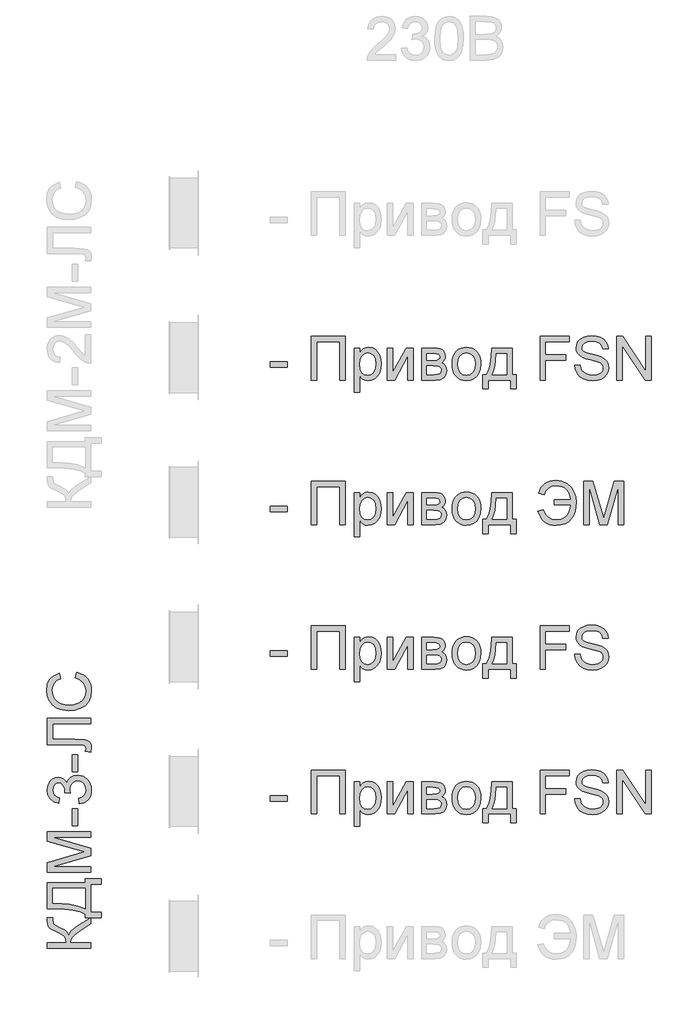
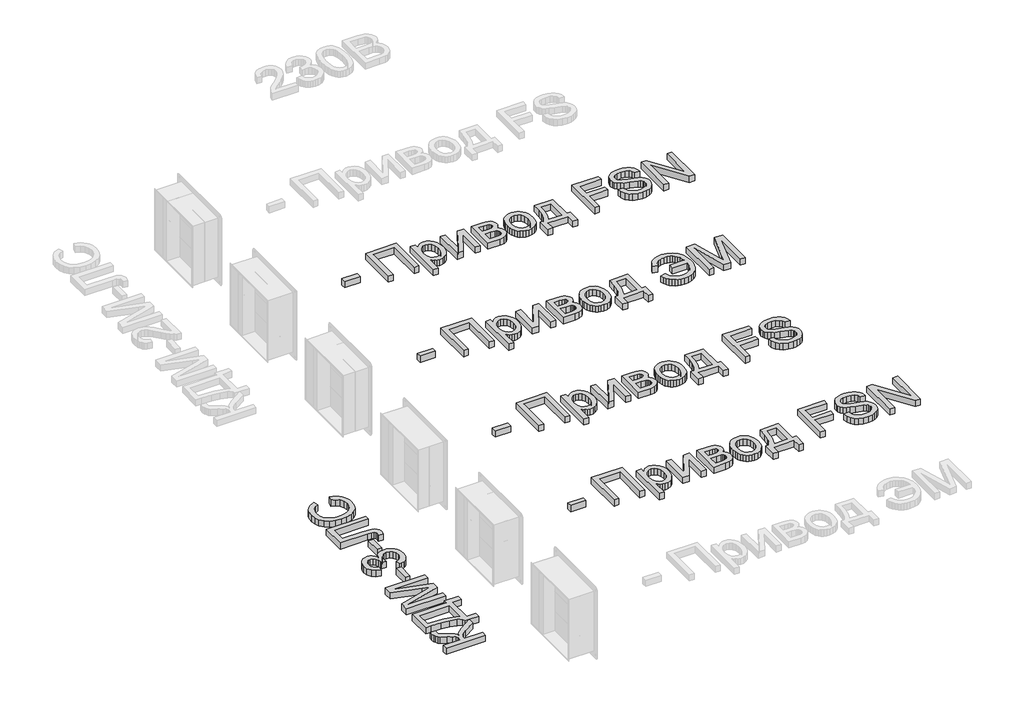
# One storey, part 4 of 23: 5 proxies.
"""IFC4 building model written with IfcOpenShell, lengths in millimetres."""

from ifc_helpers import new_model, si_unit, origin, origin_with_axes, place, context, project, spatial, polyline, outline, extrude, element, save

model = new_model("IFC4")

# Units and contexts
model_context = context("Model", 3, world=origin())
ifc_project = project(units=[si_unit("LENGTHUNIT", "METRE", prefix="MILLI")], contexts=[model_context])

# Site, building, storey
site = spatial("IfcSite", under=ifc_project)
building = spatial("IfcBuilding", under=site)
storey = spatial("IfcBuildingStorey", under=building, Name="Этаж 01", Elevation=0.0)

# Proxies
placement = place(None, origin())
element("IfcBuildingElementProxy", 1, Name="300 мм Arial", ObjectType="300 мм Arial", at=placement, inside=storey, context=model_context, shape_type="SweptSolid", body=[
    extrude(outline(polyline([(17804.7738082, -16034.3206311), (17804.7738082, -15996.6495148), (17922.4960467, -15996.6495148), (17922.4960467, -16034.3206311), (17804.7738082, -16034.3206311)])), origin_with_axes(), (0.0, 0.0, 1.0), 50.0),
    extrude(outline(polyline([(18087.3071805, -15822.4206019), (18322.7516574, -15822.4206019), (18322.7516574, -16123.7895324), (18285.0805411, -16123.7895324), (18285.0805411, -15860.0917182), (18124.9782968, -15860.0917182), (18124.9782968, -16123.7895324), (18087.3071805, -16123.7895324), (18087.3071805, -15822.4206019)])), origin_with_axes(), (0.0, 0.0, 1.0), 50.0),
    extrude(outline(polyline([(18383.9672214, -16208.5495441), (18383.9672214, -15902.4717241), (18421.6383378, -15902.4717241), (18421.6383378, -15939.4070764), (18433.9255964, -15921.1877206), (18447.684383, -15908.173895), (18463.724038, -15900.3655996), (18482.8539017, -15897.7628345), (18508.3297299, -15901.4048663), (18530.6049847, -15912.3309615), (18548.7415671, -15929.8789327), (18561.8013779, -15953.3865922), (18569.6924467, -15981.1432887), (18572.322803, -16011.438371), (18569.3521559, -16043.6556368), (18560.4402145, -16072.469994), (18545.8720875, -16096.4191119), (18525.9328834, -16114.0406595), (18502.7103324, -16124.8839813), (18478.292165, -16128.4984219), (18460.9741201, -16126.0795978), (18445.5138792, -16118.8231254), (18432.2793245, -16107.869439), (18421.6383378, -16094.3589728), (18421.6383378, -16208.5495441), (18383.9672214, -16208.5495441)]), holes=[polyline([(18421.6383378, -16014.8964618), (18425.7126308, -16048.668029), (18437.9355101, -16072.286053), (18455.970925, -16086.1919925), (18477.4828246, -16090.8273056), (18499.3442122, -16086.0264456), (18517.8394795, -16071.6238655), (18530.4486349, -16047.1413187), (18534.6516867, -16012.1005586), (18530.5498024, -15978.5129325), (18518.2441497, -15954.5638146), (18500.236326, -15940.2164168), (18479.027929, -15935.4339508), (18457.7367585, -15940.5199194), (18439.0391561, -15955.7778252), (18425.9885423, -15980.7294215), (18421.6383378, -16014.8964618)])]), origin_with_axes(), (0.0, 0.0, 1.0), 50.0),
    extrude(outline(polyline([(18614.7028088, -15902.4717241), (18652.3739251, -15902.4717241), (18652.3739251, -16071.2559835), (18744.9330351, -15902.4717241), (18793.6406113, -15902.4717241), (18793.6406113, -16123.7895324), (18755.969495, -16123.7895324), (18755.969495, -15956.0353426), (18663.9989962, -16123.7895324), (18614.7028088, -16123.7895324), (18614.7028088, -15902.4717241)])), origin_with_axes(), (0.0, 0.0, 1.0), 50.0),
    extrude(outline(polyline([(18850.1472857, -15902.4717241), (18933.1414638, -15902.4717241), (18959.8221055, -15903.7317199), (18978.6484666, -15907.5117074), (18992.4992238, -15914.6486181), (19004.2530535, -15925.9793836), (19012.2820781, -15940.7406486), (19014.9584196, -15958.1690581), (19013.3397388, -15972.2129533), (19008.4836965, -15984.325468), (19000.3718985, -15994.5617845), (18988.9859507, -16002.9770852), (19002.9286783, -16010.8037746), (19014.296232, -16023.3945359), (19021.856207, -16039.7560876), (19024.3761986, -16058.8951484), (19017.993446, -16087.6083381), (19002.8183137, -16107.8234538), (18978.7956194, -16119.7980127), (18945.8701809, -16123.7895324), (18850.1472857, -16123.7895324), (18850.1472857, -15902.4717241)]), holes=[polyline([(18887.818402, -16086.1184161), (18934.0243806, -16086.1184161), (18959.2059032, -16084.4169618), (18975.0064349, -16079.3125992), (18983.4861149, -16070.0327758), (18986.7050823, -16055.8049397), (18985.0955986, -16046.3779635), (18980.2671474, -16037.6683573), (18972.8543252, -16030.8533433), (18963.4917284, -16027.110144), (18930.3455607, -16024.9028521), (18887.818402, -16024.9028521), (18887.818402, -16086.1184161)]), polyline([(18887.818402, -15987.2317358), (18925.04806, -15987.2317358), (18955.7662065, -15985.3187494), (18970.7022156, -15977.6668039), (18975.6410313, -15971.3392336), (18977.2873033, -15963.8344409), (18974.3994296, -15952.5956459), (18965.7358086, -15945.3667647), (18950.0824297, -15941.4488215), (18926.2252823, -15940.1428404), (18887.818402, -15940.1428404), (18887.818402, -15987.2317358)])]), origin_with_axes(), (0.0, 0.0, 1.0), 50.0),
    extrude(outline(polyline([(19062.047315, -16013.1306282), (19064.0844615, -15984.4680223), (19070.1959011, -15959.7693448), (19080.3816339, -15939.0345959), (19094.6416597, -15922.2637754), (19108.9982546, -15911.5446138), (19124.8447715, -15903.8880698), (19142.1812106, -15899.2941433), (19161.0075717, -15897.7628345), (19181.7906051, -15899.6275364), (19200.5824773, -15905.221642), (19217.3831882, -15914.5451513), (19232.1927377, -15927.5980643), (19244.2799605, -15943.9389227), (19252.9136911, -15963.126268), (19258.0939294, -15985.1601003), (19259.8206756, -16010.0404195), (19256.767255, -16048.0978119), (19247.6069933, -16077.068519), (19232.606605, -16098.7643596), (19212.0328044, -16114.9971527), (19187.5962429, -16125.1231046), (19161.0075717, -16128.4984219), (19139.9210355, -16126.6406178), (19120.9544194, -16121.0672056), (19104.1077233, -16111.7781852), (19089.3809472, -16098.7735567), (19077.4224831, -16082.2740492), (19068.880723, -16062.500392), (19063.755667, -16039.452585), (19062.047315, -16013.1306282)]), holes=[polyline([(19099.7184313, -16013.0570518), (19104.0778329, -16047.1505157), (19117.1560378, -16071.4399245), (19136.8377246, -16085.9804603), (19161.0075717, -16090.8273056), (19185.0670541, -16085.9528692), (19204.7119527, -16071.3295599), (19217.7901576, -16046.7182544), (19222.1495593, -16011.8798294), (19217.7625665, -15978.7796469), (19204.6015881, -15954.821332), (19184.9290984, -15940.2807961), (19161.0075717, -15935.4339508), (19136.8377246, -15940.262402), (19117.1560378, -15954.7477556), (19104.0778329, -15978.981982), (19099.7184313, -16013.0570518)])]), origin_with_axes(), (0.0, 0.0, 1.0), 50.0),
    extrude(outline(polyline([(19335.1629082, -15902.4717241), (19476.4295943, -15902.4717241), (19476.4295943, -16086.1184161), (19504.6829316, -16086.1184161), (19504.6829316, -16185.0050964), (19467.0118152, -16185.0050964), (19467.0118152, -16123.7895324), (19311.6184605, -16123.7895324), (19311.6184605, -16185.0050964), (19273.9473442, -16185.0050964), (19273.9473442, -16086.1184161), (19297.4917919, -16086.1184161), (19314.6075017, -16055.1887373), (19326.5912577, -16014.2710624), (19333.4430598, -15963.3653913), (19335.1629082, -15902.4717241)]), holes=[polyline([(19368.1251349, -15940.1428404), (19365.0349262, -15986.2660455), (19359.2959671, -16025.9697099), (19350.9082576, -16059.2538334), (19339.8717977, -16086.1184161), (19438.758478, -16086.1184161), (19438.758478, -15940.1428404), (19368.1251349, -15940.1428404)])]), origin_with_axes(), (0.0, 0.0, 1.0), 50.0),
    extrude(outline(polyline([(19669.4940654, -16123.7895324), (19669.4940654, -15822.4206019), (19871.9763155, -15822.4206019), (19871.9763155, -15860.0917182), (19707.1651817, -15860.0917182), (19707.1651817, -15949.5606195), (19848.4318678, -15949.5606195), (19848.4318678, -15987.2317358), (19707.1651817, -15987.2317358), (19707.1651817, -16123.7895324), (19669.4940654, -16123.7895324)])), origin_with_axes(), (0.0, 0.0, 1.0), 50.0),
    extrude(outline(polyline([(19909.6474318, -16020.1939625), (19947.3185481, -16020.1939625), (19951.6411616, -16041.0988569), (19959.458654, -16057.901867), (19971.6539421, -16071.2375894), (19989.1099428, -16081.7406203), (20010.4470985, -16088.5556343), (20034.2858518, -16090.8273056), (20055.2735196, -16089.1074573), (20073.6492253, -16083.9479123), (20088.539249, -16075.780932), (20099.0698712, -16065.0387777), (20105.3330621, -16052.7055339), (20107.4207924, -16039.7652847), (20105.857294, -16027.1561293), (20101.1667985, -16016.2576252), (20091.6386549, -16006.9594078), (20075.5622117, -15999.1511124), (20020.7110062, -15984.7669264), (19984.7045559, -15975.2479798), (19961.665946, -15966.1888856), (19942.9131613, -15953.5153509), (19929.6234242, -15938.1562776), (19921.7047642, -15920.4427595), (19919.0652109, -15900.7058905), (19922.3301636, -15878.6421678), (19932.1250217, -15858.0683673), (19948.1922679, -15840.6307607), (19970.2743846, -15827.97562), (19996.7802824, -15820.2776893), (20026.1188715, -15817.7117124), (20057.9038759, -15820.3972509), (20085.7157547, -15828.4538666), (20108.5612266, -15841.7160126), (20125.4470102, -15860.0181418), (20136.1339822, -15882.2198202), (20140.3830192, -15907.1806136), (20102.7119029, -15907.1806136), (20095.7957214, -15884.7030237), (20081.3747472, -15868.4794277), (20058.841975, -15858.6569784), (20027.5903995, -15855.3828287), (19995.60306, -15858.6201902), (19973.658899, -15868.3322749), (19960.9669702, -15882.6244904), (19956.7363272, -15899.6022445), (19959.7345655, -15914.078401), (19968.7292803, -15925.7218662), (19989.9928596, -15936.1329266), (20030.2391499, -15946.7647163), (20071.7730271, -15956.8630771), (20096.8993674, -15965.6738508), (20118.3744789, -15979.340667), (20133.3564731, -15996.2080564), (20142.1580498, -16016.0920783), (20145.0919088, -16038.8087915), (20141.7165914, -16062.0313424), (20131.5906395, -16083.8743359), (20115.1279202, -16102.6731058), (20092.7423008, -16116.7629863), (20065.8225358, -16125.564563), (20035.7573798, -16128.4984219), (19998.8496186, -16125.3346367), (19968.4717629, -16115.8432813), (19944.2743246, -16099.9875673), (19925.907816, -16077.7307066), (19914.1171981, -16050.6178035), (19909.6474318, -16020.1939625)])), origin_with_axes(), (0.0, 0.0, 1.0), 50.0),
    extrude(outline(polyline([(20201.5985832, -16123.7895324), (20201.5985832, -15822.4206019), (20241.9184499, -15822.4206019), (20399.3719438, -16061.1760168), (20399.3719438, -15822.4206019), (20437.0430601, -15822.4206019), (20437.0430601, -16123.7895324), (20396.7231935, -16123.7895324), (20239.2696995, -15884.9605411), (20239.2696995, -16123.7895324), (20201.5985832, -16123.7895324)])), origin_with_axes(), (0.0, 0.0, 1.0), 50.0),
])
element("IfcBuildingElementProxy", 2, Name="300 мм Arial", ObjectType="300 мм Arial", at=placement, inside=storey, context=model_context, shape_type="SweptSolid", body=[
    extrude(outline(polyline([(17804.7738082, -17034.3206311), (17804.7738082, -16996.6495148), (17922.4960467, -16996.6495148), (17922.4960467, -17034.3206311), (17804.7738082, -17034.3206311)])), origin_with_axes(), (0.0, 0.0, 1.0), 50.0),
    extrude(outline(polyline([(18087.3071805, -16822.4206019), (18322.7516574, -16822.4206019), (18322.7516574, -17123.7895324), (18285.0805411, -17123.7895324), (18285.0805411, -16860.0917182), (18124.9782968, -16860.0917182), (18124.9782968, -17123.7895324), (18087.3071805, -17123.7895324), (18087.3071805, -16822.4206019)])), origin_with_axes(), (0.0, 0.0, 1.0), 50.0),
    extrude(outline(polyline([(18383.9672214, -17208.5495441), (18383.9672214, -16902.4717241), (18421.6383378, -16902.4717241), (18421.6383378, -16939.4070764), (18433.9255964, -16921.1877206), (18447.684383, -16908.173895), (18463.724038, -16900.3655996), (18482.8539017, -16897.7628345), (18508.3297299, -16901.4048663), (18530.6049847, -16912.3309615), (18548.7415671, -16929.8789327), (18561.8013779, -16953.3865922), (18569.6924467, -16981.1432887), (18572.322803, -17011.438371), (18569.3521559, -17043.6556368), (18560.4402145, -17072.469994), (18545.8720875, -17096.4191119), (18525.9328834, -17114.0406595), (18502.7103324, -17124.8839813), (18478.292165, -17128.4984219), (18460.9741201, -17126.0795978), (18445.5138792, -17118.8231254), (18432.2793245, -17107.869439), (18421.6383378, -17094.3589728), (18421.6383378, -17208.5495441), (18383.9672214, -17208.5495441)]), holes=[polyline([(18421.6383378, -17014.8964618), (18425.7126308, -17048.668029), (18437.9355101, -17072.286053), (18455.970925, -17086.1919925), (18477.4828246, -17090.8273056), (18499.3442122, -17086.0264456), (18517.8394795, -17071.6238655), (18530.4486349, -17047.1413187), (18534.6516867, -17012.1005586), (18530.5498024, -16978.5129325), (18518.2441497, -16954.5638146), (18500.236326, -16940.2164168), (18479.027929, -16935.4339508), (18457.7367585, -16940.5199194), (18439.0391561, -16955.7778252), (18425.9885423, -16980.7294215), (18421.6383378, -17014.8964618)])]), origin_with_axes(), (0.0, 0.0, 1.0), 50.0),
    extrude(outline(polyline([(18614.7028088, -16902.4717241), (18652.3739251, -16902.4717241), (18652.3739251, -17071.2559835), (18744.9330351, -16902.4717241), (18793.6406113, -16902.4717241), (18793.6406113, -17123.7895324), (18755.969495, -17123.7895324), (18755.969495, -16956.0353426), (18663.9989962, -17123.7895324), (18614.7028088, -17123.7895324), (18614.7028088, -16902.4717241)])), origin_with_axes(), (0.0, 0.0, 1.0), 50.0),
    extrude(outline(polyline([(18850.1472857, -16902.4717241), (18933.1414638, -16902.4717241), (18959.8221055, -16903.7317199), (18978.6484666, -16907.5117074), (18992.4992238, -16914.6486181), (19004.2530535, -16925.9793836), (19012.2820781, -16940.7406486), (19014.9584196, -16958.1690581), (19013.3397388, -16972.2129533), (19008.4836965, -16984.325468), (19000.3718985, -16994.5617845), (18988.9859507, -17002.9770852), (19002.9286783, -17010.8037746), (19014.296232, -17023.3945359), (19021.856207, -17039.7560876), (19024.3761986, -17058.8951484), (19017.993446, -17087.6083381), (19002.8183137, -17107.8234538), (18978.7956194, -17119.7980127), (18945.8701809, -17123.7895324), (18850.1472857, -17123.7895324), (18850.1472857, -16902.4717241)]), holes=[polyline([(18887.818402, -17086.1184161), (18934.0243806, -17086.1184161), (18959.2059032, -17084.4169618), (18975.0064349, -17079.3125992), (18983.4861149, -17070.0327758), (18986.7050823, -17055.8049397), (18985.0955986, -17046.3779635), (18980.2671474, -17037.6683573), (18972.8543252, -17030.8533433), (18963.4917284, -17027.110144), (18930.3455607, -17024.9028521), (18887.818402, -17024.9028521), (18887.818402, -17086.1184161)]), polyline([(18887.818402, -16987.2317358), (18925.04806, -16987.2317358), (18955.7662065, -16985.3187494), (18970.7022156, -16977.6668039), (18975.6410313, -16971.3392336), (18977.2873033, -16963.8344409), (18974.3994296, -16952.5956459), (18965.7358086, -16945.3667647), (18950.0824297, -16941.4488215), (18926.2252823, -16940.1428404), (18887.818402, -16940.1428404), (18887.818402, -16987.2317358)])]), origin_with_axes(), (0.0, 0.0, 1.0), 50.0),
    extrude(outline(polyline([(19062.047315, -17013.1306282), (19064.0844615, -16984.4680223), (19070.1959011, -16959.7693448), (19080.3816339, -16939.0345959), (19094.6416597, -16922.2637754), (19108.9982546, -16911.5446138), (19124.8447715, -16903.8880698), (19142.1812106, -16899.2941433), (19161.0075717, -16897.7628345), (19181.7906051, -16899.6275364), (19200.5824773, -16905.221642), (19217.3831882, -16914.5451513), (19232.1927377, -16927.5980643), (19244.2799605, -16943.9389227), (19252.9136911, -16963.126268), (19258.0939294, -16985.1601003), (19259.8206756, -17010.0404195), (19256.767255, -17048.0978119), (19247.6069933, -17077.068519), (19232.606605, -17098.7643596), (19212.0328044, -17114.9971527), (19187.5962429, -17125.1231046), (19161.0075717, -17128.4984219), (19139.9210355, -17126.6406178), (19120.9544194, -17121.0672056), (19104.1077233, -17111.7781852), (19089.3809472, -17098.7735567), (19077.4224831, -17082.2740492), (19068.880723, -17062.500392), (19063.755667, -17039.452585), (19062.047315, -17013.1306282)]), holes=[polyline([(19099.7184313, -17013.0570518), (19104.0778329, -17047.1505157), (19117.1560378, -17071.4399245), (19136.8377246, -17085.9804603), (19161.0075717, -17090.8273056), (19185.0670541, -17085.9528692), (19204.7119527, -17071.3295599), (19217.7901576, -17046.7182544), (19222.1495593, -17011.8798294), (19217.7625665, -16978.7796469), (19204.6015881, -16954.821332), (19184.9290984, -16940.2807961), (19161.0075717, -16935.4339508), (19136.8377246, -16940.262402), (19117.1560378, -16954.7477556), (19104.0778329, -16978.981982), (19099.7184313, -17013.0570518)])]), origin_with_axes(), (0.0, 0.0, 1.0), 50.0),
    extrude(outline(polyline([(19335.1629082, -16902.4717241), (19476.4295943, -16902.4717241), (19476.4295943, -17086.1184161), (19504.6829316, -17086.1184161), (19504.6829316, -17185.0050964), (19467.0118152, -17185.0050964), (19467.0118152, -17123.7895324), (19311.6184605, -17123.7895324), (19311.6184605, -17185.0050964), (19273.9473442, -17185.0050964), (19273.9473442, -17086.1184161), (19297.4917919, -17086.1184161), (19314.6075017, -17055.1887373), (19326.5912577, -17014.2710624), (19333.4430598, -16963.3653913), (19335.1629082, -16902.4717241)]), holes=[polyline([(19368.1251349, -16940.1428404), (19365.0349262, -16986.2660455), (19359.2959671, -17025.9697099), (19350.9082576, -17059.2538334), (19339.8717977, -17086.1184161), (19438.758478, -17086.1184161), (19438.758478, -16940.1428404), (19368.1251349, -16940.1428404)])]), origin_with_axes(), (0.0, 0.0, 1.0), 50.0),
    extrude(outline(polyline([(19768.3807457, -16949.5606195), (19881.3940946, -16949.5606195), (19878.6947605, -16929.0121108), (19873.0983556, -16910.7030837), (19864.6048801, -16894.6335383), (19853.2143338, -16880.8034746), (19839.1520445, -16869.681942), (19822.64334, -16861.7379902), (19803.6882202, -16856.9716191), (19782.2866851, -16855.3828287), (19751.8674426, -16859.2088014), (19727.6378147, -16870.6867197), (19709.5978014, -16889.8165834), (19697.7474026, -16916.5983927), (19660.0762863, -16907.1806136), (19666.8637091, -16887.2873947), (19676.1895177, -16869.6934383), (19688.053712, -16854.3987444), (19702.4562922, -16841.4033129), (19719.0799598, -16831.0382377), (19737.6074168, -16823.6346125), (19758.0386631, -16819.1924374), (19780.3736987, -16817.7117124), (19821.4477235, -16823.1471689), (19856.3781189, -16839.4535383), (19884.1256184, -16864.2119966), (19903.6509553, -16895.0037196), (19915.211647, -16930.6054997), (19919.0652109, -16969.7941292), (19917.8925871, -17002.0136942), (19912.0938471, -17031.5707132), (19901.6689911, -17058.4651863), (19886.6180189, -17082.6971135), (19866.9777189, -17102.7351859), (19842.7848792, -17117.0480948), (19814.0394998, -17125.6358401), (19780.7415807, -17128.4984219), (19757.0545788, -17126.9533175), (19735.6576422, -17122.3180044), (19716.5507711, -17114.5924825), (19699.7339654, -17103.7767518), (19685.2072251, -17089.8708124), (19672.9705502, -17072.8746642), (19663.0239408, -17052.7883073), (19655.3673968, -17029.6117416), (19693.0385131, -17020.1939625), (19705.7672301, -17051.0960501), (19725.3385523, -17073.1689698), (19751.7524795, -17086.4127217), (19785.0090119, -17090.8273056), (19804.7182898, -17089.0936617), (19822.5697636, -17083.89273), (19838.5634333, -17075.2245105), (19852.699299, -17063.0890032), (19864.3979464, -17047.9460605), (19873.0799615, -17030.2555351), (19878.7453442, -17010.0174268), (19881.3940946, -16987.2317358), (19768.3807457, -16987.2317358), (19768.3807457, -16949.5606195)])), origin_with_axes(), (0.0, 0.0, 1.0), 50.0),
    extrude(outline(polyline([(19970.8629958, -17123.7895324), (19970.8629958, -16822.4206019), (20035.6838034, -16822.4206019), (20097.3408258, -17034.8356659), (20109.7752372, -17079.2022346), (20123.2397182, -17031.156846), (20183.866671, -16822.4206019), (20248.6874786, -16822.4206019), (20248.6874786, -17123.7895324), (20211.0163623, -17123.7895324), (20211.0163623, -16860.0917182), (20135.3062477, -17123.7895324), (20084.2442268, -17123.7895324), (20008.5341121, -16860.0917182), (20008.5341121, -17123.7895324), (19970.8629958, -17123.7895324)])), origin_with_axes(), (0.0, 0.0, 1.0), 50.0),
])
element("IfcBuildingElementProxy", 3, Name="300 мм Arial", ObjectType="300 мм Arial", at=placement, inside=storey, context=model_context, shape_type="SweptSolid", body=[
    extrude(outline(polyline([(17804.7738082, -18034.3206311), (17804.7738082, -17996.6495148), (17922.4960467, -17996.6495148), (17922.4960467, -18034.3206311), (17804.7738082, -18034.3206311)])), origin_with_axes(), (0.0, 0.0, 1.0), 50.0),
    extrude(outline(polyline([(18087.3071805, -17822.4206019), (18322.7516574, -17822.4206019), (18322.7516574, -18123.7895324), (18285.0805411, -18123.7895324), (18285.0805411, -17860.0917182), (18124.9782968, -17860.0917182), (18124.9782968, -18123.7895324), (18087.3071805, -18123.7895324), (18087.3071805, -17822.4206019)])), origin_with_axes(), (0.0, 0.0, 1.0), 50.0),
    extrude(outline(polyline([(18383.9672214, -18208.5495441), (18383.9672214, -17902.4717241), (18421.6383378, -17902.4717241), (18421.6383378, -17939.4070764), (18433.9255964, -17921.1877206), (18447.684383, -17908.173895), (18463.724038, -17900.3655996), (18482.8539017, -17897.7628345), (18508.3297299, -17901.4048663), (18530.6049847, -17912.3309615), (18548.7415671, -17929.8789327), (18561.8013779, -17953.3865922), (18569.6924467, -17981.1432887), (18572.322803, -18011.438371), (18569.3521559, -18043.6556368), (18560.4402145, -18072.469994), (18545.8720875, -18096.4191119), (18525.9328834, -18114.0406595), (18502.7103324, -18124.8839813), (18478.292165, -18128.4984219), (18460.9741201, -18126.0795978), (18445.5138792, -18118.8231254), (18432.2793245, -18107.869439), (18421.6383378, -18094.3589728), (18421.6383378, -18208.5495441), (18383.9672214, -18208.5495441)]), holes=[polyline([(18421.6383378, -18014.8964618), (18425.7126308, -18048.668029), (18437.9355101, -18072.286053), (18455.970925, -18086.1919925), (18477.4828246, -18090.8273056), (18499.3442122, -18086.0264456), (18517.8394795, -18071.6238655), (18530.4486349, -18047.1413187), (18534.6516867, -18012.1005586), (18530.5498024, -17978.5129325), (18518.2441497, -17954.5638146), (18500.236326, -17940.2164168), (18479.027929, -17935.4339508), (18457.7367585, -17940.5199194), (18439.0391561, -17955.7778252), (18425.9885423, -17980.7294215), (18421.6383378, -18014.8964618)])]), origin_with_axes(), (0.0, 0.0, 1.0), 50.0),
    extrude(outline(polyline([(18614.7028088, -17902.4717241), (18652.3739251, -17902.4717241), (18652.3739251, -18071.2559835), (18744.9330351, -17902.4717241), (18793.6406113, -17902.4717241), (18793.6406113, -18123.7895324), (18755.969495, -18123.7895324), (18755.969495, -17956.0353426), (18663.9989962, -18123.7895324), (18614.7028088, -18123.7895324), (18614.7028088, -17902.4717241)])), origin_with_axes(), (0.0, 0.0, 1.0), 50.0),
    extrude(outline(polyline([(18850.1472857, -17902.4717241), (18933.1414638, -17902.4717241), (18959.8221055, -17903.7317199), (18978.6484666, -17907.5117074), (18992.4992238, -17914.6486181), (19004.2530535, -17925.9793836), (19012.2820781, -17940.7406486), (19014.9584196, -17958.1690581), (19013.3397388, -17972.2129533), (19008.4836965, -17984.325468), (19000.3718985, -17994.5617845), (18988.9859507, -18002.9770852), (19002.9286783, -18010.8037746), (19014.296232, -18023.3945359), (19021.856207, -18039.7560876), (19024.3761986, -18058.8951484), (19017.993446, -18087.6083381), (19002.8183137, -18107.8234538), (18978.7956194, -18119.7980127), (18945.8701809, -18123.7895324), (18850.1472857, -18123.7895324), (18850.1472857, -17902.4717241)]), holes=[polyline([(18887.818402, -18086.1184161), (18934.0243806, -18086.1184161), (18959.2059032, -18084.4169618), (18975.0064349, -18079.3125992), (18983.4861149, -18070.0327758), (18986.7050823, -18055.8049397), (18985.0955986, -18046.3779635), (18980.2671474, -18037.6683573), (18972.8543252, -18030.8533433), (18963.4917284, -18027.110144), (18930.3455607, -18024.9028521), (18887.818402, -18024.9028521), (18887.818402, -18086.1184161)]), polyline([(18887.818402, -17987.2317358), (18925.04806, -17987.2317358), (18955.7662065, -17985.3187494), (18970.7022156, -17977.6668039), (18975.6410313, -17971.3392336), (18977.2873033, -17963.8344409), (18974.3994296, -17952.5956459), (18965.7358086, -17945.3667647), (18950.0824297, -17941.4488215), (18926.2252823, -17940.1428404), (18887.818402, -17940.1428404), (18887.818402, -17987.2317358)])]), origin_with_axes(), (0.0, 0.0, 1.0), 50.0),
    extrude(outline(polyline([(19062.047315, -18013.1306282), (19064.0844615, -17984.4680223), (19070.1959011, -17959.7693448), (19080.3816339, -17939.0345959), (19094.6416597, -17922.2637754), (19108.9982546, -17911.5446138), (19124.8447715, -17903.8880698), (19142.1812106, -17899.2941433), (19161.0075717, -17897.7628345), (19181.7906051, -17899.6275364), (19200.5824773, -17905.221642), (19217.3831882, -17914.5451513), (19232.1927377, -17927.5980643), (19244.2799605, -17943.9389227), (19252.9136911, -17963.126268), (19258.0939294, -17985.1601003), (19259.8206756, -18010.0404195), (19256.767255, -18048.0978119), (19247.6069933, -18077.068519), (19232.606605, -18098.7643596), (19212.0328044, -18114.9971527), (19187.5962429, -18125.1231046), (19161.0075717, -18128.4984219), (19139.9210355, -18126.6406178), (19120.9544194, -18121.0672056), (19104.1077233, -18111.7781852), (19089.3809472, -18098.7735567), (19077.4224831, -18082.2740492), (19068.880723, -18062.500392), (19063.755667, -18039.452585), (19062.047315, -18013.1306282)]), holes=[polyline([(19099.7184313, -18013.0570518), (19104.0778329, -18047.1505157), (19117.1560378, -18071.4399245), (19136.8377246, -18085.9804603), (19161.0075717, -18090.8273056), (19185.0670541, -18085.9528692), (19204.7119527, -18071.3295599), (19217.7901576, -18046.7182544), (19222.1495593, -18011.8798294), (19217.7625665, -17978.7796469), (19204.6015881, -17954.821332), (19184.9290984, -17940.2807961), (19161.0075717, -17935.4339508), (19136.8377246, -17940.262402), (19117.1560378, -17954.7477556), (19104.0778329, -17978.981982), (19099.7184313, -18013.0570518)])]), origin_with_axes(), (0.0, 0.0, 1.0), 50.0),
    extrude(outline(polyline([(19335.1629082, -17902.4717241), (19476.4295943, -17902.4717241), (19476.4295943, -18086.1184161), (19504.6829316, -18086.1184161), (19504.6829316, -18185.0050964), (19467.0118152, -18185.0050964), (19467.0118152, -18123.7895324), (19311.6184605, -18123.7895324), (19311.6184605, -18185.0050964), (19273.9473442, -18185.0050964), (19273.9473442, -18086.1184161), (19297.4917919, -18086.1184161), (19314.6075017, -18055.1887373), (19326.5912577, -18014.2710624), (19333.4430598, -17963.3653913), (19335.1629082, -17902.4717241)]), holes=[polyline([(19368.1251349, -17940.1428404), (19365.0349262, -17986.2660455), (19359.2959671, -18025.9697099), (19350.9082576, -18059.2538334), (19339.8717977, -18086.1184161), (19438.758478, -18086.1184161), (19438.758478, -17940.1428404), (19368.1251349, -17940.1428404)])]), origin_with_axes(), (0.0, 0.0, 1.0), 50.0),
    extrude(outline(polyline([(19669.4940654, -18123.7895324), (19669.4940654, -17822.4206019), (19871.9763155, -17822.4206019), (19871.9763155, -17860.0917182), (19707.1651817, -17860.0917182), (19707.1651817, -17949.5606195), (19848.4318678, -17949.5606195), (19848.4318678, -17987.2317358), (19707.1651817, -17987.2317358), (19707.1651817, -18123.7895324), (19669.4940654, -18123.7895324)])), origin_with_axes(), (0.0, 0.0, 1.0), 50.0),
    extrude(outline(polyline([(19909.6474318, -18020.1939625), (19947.3185481, -18020.1939625), (19951.6411616, -18041.0988569), (19959.458654, -18057.901867), (19971.6539421, -18071.2375894), (19989.1099428, -18081.7406203), (20010.4470985, -18088.5556343), (20034.2858518, -18090.8273056), (20055.2735196, -18089.1074573), (20073.6492253, -18083.9479123), (20088.539249, -18075.780932), (20099.0698712, -18065.0387777), (20105.3330621, -18052.7055339), (20107.4207924, -18039.7652847), (20105.857294, -18027.1561293), (20101.1667985, -18016.2576252), (20091.6386549, -18006.9594078), (20075.5622117, -17999.1511124), (20020.7110062, -17984.7669264), (19984.7045559, -17975.2479798), (19961.665946, -17966.1888856), (19942.9131613, -17953.5153509), (19929.6234242, -17938.1562776), (19921.7047642, -17920.4427595), (19919.0652109, -17900.7058905), (19922.3301636, -17878.6421678), (19932.1250217, -17858.0683673), (19948.1922679, -17840.6307607), (19970.2743846, -17827.97562), (19996.7802824, -17820.2776893), (20026.1188715, -17817.7117124), (20057.9038759, -17820.3972509), (20085.7157547, -17828.4538666), (20108.5612266, -17841.7160126), (20125.4470102, -17860.0181418), (20136.1339822, -17882.2198202), (20140.3830192, -17907.1806136), (20102.7119029, -17907.1806136), (20095.7957214, -17884.7030237), (20081.3747472, -17868.4794277), (20058.841975, -17858.6569784), (20027.5903995, -17855.3828287), (19995.60306, -17858.6201902), (19973.658899, -17868.3322749), (19960.9669702, -17882.6244904), (19956.7363272, -17899.6022445), (19959.7345655, -17914.078401), (19968.7292803, -17925.7218662), (19989.9928596, -17936.1329266), (20030.2391499, -17946.7647163), (20071.7730271, -17956.8630771), (20096.8993674, -17965.6738508), (20118.3744789, -17979.340667), (20133.3564731, -17996.2080564), (20142.1580498, -18016.0920783), (20145.0919088, -18038.8087915), (20141.7165914, -18062.0313424), (20131.5906395, -18083.8743359), (20115.1279202, -18102.6731058), (20092.7423008, -18116.7629863), (20065.8225358, -18125.564563), (20035.7573798, -18128.4984219), (19998.8496186, -18125.3346367), (19968.4717629, -18115.8432813), (19944.2743246, -18099.9875673), (19925.907816, -18077.7307066), (19914.1171981, -18050.6178035), (19909.6474318, -18020.1939625)])), origin_with_axes(), (0.0, 0.0, 1.0), 50.0),
])
element("IfcBuildingElementProxy", 4, Name="300 мм Arial", ObjectType="300 мм Arial", at=placement, inside=storey, context=model_context, shape_type="SweptSolid", body=[
    extrude(outline(polyline([(17804.7738082, -19034.3206311), (17804.7738082, -18996.6495148), (17922.4960467, -18996.6495148), (17922.4960467, -19034.3206311), (17804.7738082, -19034.3206311)])), origin_with_axes(), (0.0, 0.0, 1.0), 50.0),
    extrude(outline(polyline([(18087.3071805, -18822.4206019), (18322.7516574, -18822.4206019), (18322.7516574, -19123.7895324), (18285.0805411, -19123.7895324), (18285.0805411, -18860.0917182), (18124.9782968, -18860.0917182), (18124.9782968, -19123.7895324), (18087.3071805, -19123.7895324), (18087.3071805, -18822.4206019)])), origin_with_axes(), (0.0, 0.0, 1.0), 50.0),
    extrude(outline(polyline([(18383.9672214, -19208.5495441), (18383.9672214, -18902.4717241), (18421.6383378, -18902.4717241), (18421.6383378, -18939.4070764), (18433.9255964, -18921.1877206), (18447.684383, -18908.173895), (18463.724038, -18900.3655996), (18482.8539017, -18897.7628345), (18508.3297299, -18901.4048663), (18530.6049847, -18912.3309615), (18548.7415671, -18929.8789327), (18561.8013779, -18953.3865922), (18569.6924467, -18981.1432887), (18572.322803, -19011.438371), (18569.3521559, -19043.6556368), (18560.4402145, -19072.469994), (18545.8720875, -19096.4191119), (18525.9328834, -19114.0406595), (18502.7103324, -19124.8839813), (18478.292165, -19128.4984219), (18460.9741201, -19126.0795978), (18445.5138792, -19118.8231254), (18432.2793245, -19107.869439), (18421.6383378, -19094.3589728), (18421.6383378, -19208.5495441), (18383.9672214, -19208.5495441)]), holes=[polyline([(18421.6383378, -19014.8964618), (18425.7126308, -19048.668029), (18437.9355101, -19072.286053), (18455.970925, -19086.1919925), (18477.4828246, -19090.8273056), (18499.3442122, -19086.0264456), (18517.8394795, -19071.6238655), (18530.4486349, -19047.1413187), (18534.6516867, -19012.1005586), (18530.5498024, -18978.5129325), (18518.2441497, -18954.5638146), (18500.236326, -18940.2164168), (18479.027929, -18935.4339508), (18457.7367585, -18940.5199194), (18439.0391561, -18955.7778252), (18425.9885423, -18980.7294215), (18421.6383378, -19014.8964618)])]), origin_with_axes(), (0.0, 0.0, 1.0), 50.0),
    extrude(outline(polyline([(18614.7028088, -18902.4717241), (18652.3739251, -18902.4717241), (18652.3739251, -19071.2559835), (18744.9330351, -18902.4717241), (18793.6406113, -18902.4717241), (18793.6406113, -19123.7895324), (18755.969495, -19123.7895324), (18755.969495, -18956.0353426), (18663.9989962, -19123.7895324), (18614.7028088, -19123.7895324), (18614.7028088, -18902.4717241)])), origin_with_axes(), (0.0, 0.0, 1.0), 50.0),
    extrude(outline(polyline([(18850.1472857, -18902.4717241), (18933.1414638, -18902.4717241), (18959.8221055, -18903.7317199), (18978.6484666, -18907.5117074), (18992.4992238, -18914.6486181), (19004.2530535, -18925.9793836), (19012.2820781, -18940.7406486), (19014.9584196, -18958.1690581), (19013.3397388, -18972.2129533), (19008.4836965, -18984.325468), (19000.3718985, -18994.5617845), (18988.9859507, -19002.9770852), (19002.9286783, -19010.8037746), (19014.296232, -19023.3945359), (19021.856207, -19039.7560876), (19024.3761986, -19058.8951484), (19017.993446, -19087.6083381), (19002.8183137, -19107.8234538), (18978.7956194, -19119.7980127), (18945.8701809, -19123.7895324), (18850.1472857, -19123.7895324), (18850.1472857, -18902.4717241)]), holes=[polyline([(18887.818402, -19086.1184161), (18934.0243806, -19086.1184161), (18959.2059032, -19084.4169618), (18975.0064349, -19079.3125992), (18983.4861149, -19070.0327758), (18986.7050823, -19055.8049397), (18985.0955986, -19046.3779635), (18980.2671474, -19037.6683573), (18972.8543252, -19030.8533433), (18963.4917284, -19027.110144), (18930.3455607, -19024.9028521), (18887.818402, -19024.9028521), (18887.818402, -19086.1184161)]), polyline([(18887.818402, -18987.2317358), (18925.04806, -18987.2317358), (18955.7662065, -18985.3187494), (18970.7022156, -18977.6668039), (18975.6410313, -18971.3392336), (18977.2873033, -18963.8344409), (18974.3994296, -18952.5956459), (18965.7358086, -18945.3667647), (18950.0824297, -18941.4488215), (18926.2252823, -18940.1428404), (18887.818402, -18940.1428404), (18887.818402, -18987.2317358)])]), origin_with_axes(), (0.0, 0.0, 1.0), 50.0),
    extrude(outline(polyline([(19062.047315, -19013.1306282), (19064.0844615, -18984.4680223), (19070.1959011, -18959.7693448), (19080.3816339, -18939.0345959), (19094.6416597, -18922.2637754), (19108.9982546, -18911.5446138), (19124.8447715, -18903.8880698), (19142.1812106, -18899.2941433), (19161.0075717, -18897.7628345), (19181.7906051, -18899.6275364), (19200.5824773, -18905.221642), (19217.3831882, -18914.5451513), (19232.1927377, -18927.5980643), (19244.2799605, -18943.9389227), (19252.9136911, -18963.126268), (19258.0939294, -18985.1601003), (19259.8206756, -19010.0404195), (19256.767255, -19048.0978119), (19247.6069933, -19077.068519), (19232.606605, -19098.7643596), (19212.0328044, -19114.9971527), (19187.5962429, -19125.1231046), (19161.0075717, -19128.4984219), (19139.9210355, -19126.6406178), (19120.9544194, -19121.0672056), (19104.1077233, -19111.7781852), (19089.3809472, -19098.7735567), (19077.4224831, -19082.2740492), (19068.880723, -19062.500392), (19063.755667, -19039.452585), (19062.047315, -19013.1306282)]), holes=[polyline([(19099.7184313, -19013.0570518), (19104.0778329, -19047.1505157), (19117.1560378, -19071.4399245), (19136.8377246, -19085.9804603), (19161.0075717, -19090.8273056), (19185.0670541, -19085.9528692), (19204.7119527, -19071.3295599), (19217.7901576, -19046.7182544), (19222.1495593, -19011.8798294), (19217.7625665, -18978.7796469), (19204.6015881, -18954.821332), (19184.9290984, -18940.2807961), (19161.0075717, -18935.4339508), (19136.8377246, -18940.262402), (19117.1560378, -18954.7477556), (19104.0778329, -18978.981982), (19099.7184313, -19013.0570518)])]), origin_with_axes(), (0.0, 0.0, 1.0), 50.0),
    extrude(outline(polyline([(19335.1629082, -18902.4717241), (19476.4295943, -18902.4717241), (19476.4295943, -19086.1184161), (19504.6829316, -19086.1184161), (19504.6829316, -19185.0050964), (19467.0118152, -19185.0050964), (19467.0118152, -19123.7895324), (19311.6184605, -19123.7895324), (19311.6184605, -19185.0050964), (19273.9473442, -19185.0050964), (19273.9473442, -19086.1184161), (19297.4917919, -19086.1184161), (19314.6075017, -19055.1887373), (19326.5912577, -19014.2710624), (19333.4430598, -18963.3653913), (19335.1629082, -18902.4717241)]), holes=[polyline([(19368.1251349, -18940.1428404), (19365.0349262, -18986.2660455), (19359.2959671, -19025.9697099), (19350.9082576, -19059.2538334), (19339.8717977, -19086.1184161), (19438.758478, -19086.1184161), (19438.758478, -18940.1428404), (19368.1251349, -18940.1428404)])]), origin_with_axes(), (0.0, 0.0, 1.0), 50.0),
    extrude(outline(polyline([(19669.4940654, -19123.7895324), (19669.4940654, -18822.4206019), (19871.9763155, -18822.4206019), (19871.9763155, -18860.0917182), (19707.1651817, -18860.0917182), (19707.1651817, -18949.5606195), (19848.4318678, -18949.5606195), (19848.4318678, -18987.2317358), (19707.1651817, -18987.2317358), (19707.1651817, -19123.7895324), (19669.4940654, -19123.7895324)])), origin_with_axes(), (0.0, 0.0, 1.0), 50.0),
    extrude(outline(polyline([(19909.6474318, -19020.1939625), (19947.3185481, -19020.1939625), (19951.6411616, -19041.0988569), (19959.458654, -19057.901867), (19971.6539421, -19071.2375894), (19989.1099428, -19081.7406203), (20010.4470985, -19088.5556343), (20034.2858518, -19090.8273056), (20055.2735196, -19089.1074573), (20073.6492253, -19083.9479123), (20088.539249, -19075.780932), (20099.0698712, -19065.0387777), (20105.3330621, -19052.7055339), (20107.4207924, -19039.7652847), (20105.857294, -19027.1561293), (20101.1667985, -19016.2576252), (20091.6386549, -19006.9594078), (20075.5622117, -18999.1511124), (20020.7110062, -18984.7669264), (19984.7045559, -18975.2479798), (19961.665946, -18966.1888856), (19942.9131613, -18953.5153509), (19929.6234242, -18938.1562776), (19921.7047642, -18920.4427595), (19919.0652109, -18900.7058905), (19922.3301636, -18878.6421678), (19932.1250217, -18858.0683673), (19948.1922679, -18840.6307607), (19970.2743846, -18827.97562), (19996.7802824, -18820.2776893), (20026.1188715, -18817.7117124), (20057.9038759, -18820.3972509), (20085.7157547, -18828.4538666), (20108.5612266, -18841.7160126), (20125.4470102, -18860.0181418), (20136.1339822, -18882.2198202), (20140.3830192, -18907.1806136), (20102.7119029, -18907.1806136), (20095.7957214, -18884.7030237), (20081.3747472, -18868.4794277), (20058.841975, -18858.6569784), (20027.5903995, -18855.3828287), (19995.60306, -18858.6201902), (19973.658899, -18868.3322749), (19960.9669702, -18882.6244904), (19956.7363272, -18899.6022445), (19959.7345655, -18914.078401), (19968.7292803, -18925.7218662), (19989.9928596, -18936.1329266), (20030.2391499, -18946.7647163), (20071.7730271, -18956.8630771), (20096.8993674, -18965.6738508), (20118.3744789, -18979.340667), (20133.3564731, -18996.2080564), (20142.1580498, -19016.0920783), (20145.0919088, -19038.8087915), (20141.7165914, -19062.0313424), (20131.5906395, -19083.8743359), (20115.1279202, -19102.6731058), (20092.7423008, -19116.7629863), (20065.8225358, -19125.564563), (20035.7573798, -19128.4984219), (19998.8496186, -19125.3346367), (19968.4717629, -19115.8432813), (19944.2743246, -19099.9875673), (19925.907816, -19077.7307066), (19914.1171981, -19050.6178035), (19909.6474318, -19020.1939625)])), origin_with_axes(), (0.0, 0.0, 1.0), 50.0),
    extrude(outline(polyline([(20201.5985832, -19123.7895324), (20201.5985832, -18822.4206019), (20241.9184499, -18822.4206019), (20399.3719438, -19061.1760168), (20399.3719438, -18822.4206019), (20437.0430601, -18822.4206019), (20437.0430601, -19123.7895324), (20396.7231935, -19123.7895324), (20239.2696995, -18884.9605411), (20239.2696995, -19123.7895324), (20201.5985832, -19123.7895324)])), origin_with_axes(), (0.0, 0.0, 1.0), 50.0),
])
element("IfcBuildingElementProxy", 5, Name="300 мм Arial", ObjectType="300 мм Arial", at=placement, inside=storey, context=model_context, shape_type="SweptSolid", body=[
    extrude(outline(polyline([(16262.355345, -20052.3550656), (16262.355345, -20014.6839493), (16394.2042521, -20014.6839493), (16391.7118516, -19989.1805299), (16384.23465, -19972.5614608), (16366.6406936, -19959.1245709), (16333.7980285, -19943.1676894), (16291.6755401, -19922.3823567), (16280.2620012, -19912.3575723), (16270.8166309, -19898.837909), (16264.4706665, -19882.7890569), (16262.355345, -19865.1767064), (16262.7968034, -19840.4550363), (16300.4679197, -19840.4550363), (16300.2471905, -19848.7691694), (16300.0264613, -19857.0833025), (16302.2889356, -19874.3369681), (16309.0763584, -19886.5138621), (16323.3317857, -19896.998499), (16347.8511207, -19908.8810874), (16378.3853263, -19923.4584115), (16395.0871689, -19935.5525321), (16410.6853655, -19961.5617892), (16416.8933742, -19946.9706695), (16427.7183019, -19932.4807174), (16463.2189144, -19903.8043159), (16563.7242755, -19840.4550363), (16563.7242755, -19884.1594174), (16478.817111, -19937.7230359), (16451.5846463, -19958.407201), (16434.4873306, -19975.4309404), (16425.4650246, -19992.8409558), (16422.4575893, -20014.6839493), (16563.7242755, -20014.6839493), (16563.7242755, -20052.3550656), (16262.355345, -20052.3550656)])), origin_with_axes(), (0.0, 0.0, 1.0), 50.0),
    extrude(outline(polyline([(16262.355345, -19779.2394723), (16262.355345, -19600.3016699), (16526.0531592, -19600.3016699), (16526.0531592, -19572.0483327), (16634.3576186, -19572.0483327), (16634.3576186, -19609.719449), (16563.7242755, -19609.719449), (16563.7242755, -19802.78392), (16634.3576186, -19802.78392), (16634.3576186, -19840.4550363), (16563.7242755, -19840.4550363), (16526.0531592, -19840.4550363), (16526.0531592, -19816.9105887), (16491.8815204, -19800.4294753), (16443.8131392, -19788.6572514), (16381.8480156, -19781.5939171), (16305.9861497, -19779.2394723), (16262.355345, -19779.2394723)]), holes=[polyline([(16300.0264613, -19637.9727862), (16300.0264613, -19741.568356), (16315.1831995, -19741.568356), (16418.4108874, -19749.2203015), (16478.0629529, -19760.551067), (16526.0531592, -19779.2394723), (16526.0531592, -19637.9727862), (16300.0264613, -19637.9727862)])]), origin_with_axes(), (0.0, 0.0, 1.0), 50.0),
    extrude(outline(polyline([(16563.7242755, -19524.9594373), (16262.355345, -19524.9594373), (16262.355345, -19460.1386297), (16474.7704091, -19398.4816073), (16519.1369777, -19386.0471959), (16471.0915891, -19372.5827149), (16262.355345, -19311.9557621), (16262.355345, -19247.1349545), (16563.7242755, -19247.1349545), (16563.7242755, -19284.8060708), (16300.0264613, -19284.8060708), (16563.7242755, -19360.5161854), (16563.7242755, -19411.5782064), (16300.0264613, -19487.288321), (16563.7242755, -19487.288321), (16563.7242755, -19524.9594373)])), origin_with_axes(), (0.0, 0.0, 1.0), 50.0),
    extrude(outline(polyline([(16474.2553743, -19204.7549487), (16436.584258, -19204.7549487), (16436.584258, -19087.0327102), (16474.2553743, -19087.0327102), (16474.2553743, -19204.7549487)])), origin_with_axes(), (0.0, 0.0, 1.0), 50.0),
    extrude(outline(polyline([(16483.6731533, -19054.0704835), (16478.9642638, -19016.3993671), (16502.6374702, -19007.9656724), (16518.6219429, -18995.6140344), (16527.7270223, -18978.7374479), (16530.7620487, -18956.7289075), (16526.5865881, -18930.9035915), (16514.0602061, -18910.9643873), (16495.3718008, -18898.2172762), (16472.7102699, -18893.9682392), (16451.1983702, -18898.180488), (16433.7515666, -18910.8172345), (16422.1908749, -18929.9470983), (16418.337311, -18953.6386988), (16422.4575893, -18980.052626), (16384.786473, -18975.8587713), (16385.2279314, -18969.8255066), (16382.5239988, -18947.2559462), (16374.4122008, -18927.0776187), (16360.6902023, -18912.8405855), (16341.1556684, -18908.0949078), (16324.8860872, -18911.5346044), (16311.6883206, -18921.8536944), (16302.9419262, -18937.5990438), (16300.0264613, -18957.3175187), (16302.9695173, -18977.0727819), (16311.7986852, -18993.2228015), (16326.513965, -19005.0134194), (16347.1153567, -19011.6904776), (16342.4064672, -19049.3615939), (16308.5797177, -19038.2699518), (16283.3246188, -19018.5330827), (16267.5976635, -18991.5305443), (16262.355345, -18958.6418939), (16264.9397161, -18934.9594905), (16272.6928291, -18913.2084675), (16284.9249054, -18894.86955), (16300.9461663, -18881.4234631), (16319.4046454, -18873.1737094), (16338.9483764, -18870.4237915), (16357.1585352, -18873.0357536), (16373.6764368, -18880.8716401), (16387.7479231, -18893.8210864), (16398.6188361, -18911.7737277), (16408.1469797, -18888.1924918), (16424.3705757, -18870.7180971), (16446.4067072, -18859.9023664), (16473.3724575, -18856.2971228), (16492.4839271, -18858.0997446), (16510.0870806, -18863.50761), (16526.1819179, -18872.5207188), (16540.768439, -18885.1390713), (16552.8717566, -18900.5119401), (16561.5169835, -18917.7885983), (16566.7041196, -18936.9690459), (16568.433165, -18958.0532827), (16566.9570385, -18977.1095701), (16562.528659, -18994.4736002), (16555.1480265, -19010.1453732), (16544.8151409, -19024.124889), (16532.1370077, -19035.8465291), (16517.720632, -19044.7446749), (16501.5660139, -19050.8193263), (16483.6731533, -19054.0704835)])), origin_with_axes(), (0.0, 0.0, 1.0), 50.0),
    extrude(outline(polyline([(16474.2553743, -18832.7526752), (16436.584258, -18832.7526752), (16436.584258, -18715.0304367), (16474.2553743, -18715.0304367), (16474.2553743, -18832.7526752)])), origin_with_axes(), (0.0, 0.0, 1.0), 50.0),
    extrude(outline(polyline([(16262.355345, -18644.3970936), (16262.355345, -18460.7504016), (16563.7242755, -18460.7504016), (16563.7242755, -18498.4215179), (16300.0264613, -18498.4215179), (16300.0264613, -18606.7259773), (16453.8011353, -18606.7259773), (16522.4111274, -18611.1037731), (16541.7985086, -18617.8819988), (16556.3298474, -18629.4610846), (16565.4073356, -18645.3167986), (16568.433165, -18664.924909), (16563.7242755, -18696.1948785), (16526.0531592, -18691.485989), (16530.7620487, -18673.4597712), (16528.23286, -18660.7218572), (16520.6452939, -18651.6443689), (16503.6767368, -18646.2089125), (16473.0045755, -18644.3970936), (16262.355345, -18644.3970936)])), origin_with_axes(), (0.0, 0.0, 1.0), 50.0),
    extrude(outline(polyline([(16456.5970385, -18182.9259189), (16466.3091232, -18145.2548026), (16489.7363085, -18152.7090115), (16510.2066422, -18162.6372268), (16527.7201245, -18175.0394486), (16542.2767552, -18189.9156768), (16553.7201845, -18206.9302191), (16561.8940626, -18225.7473831), (16566.7983894, -18246.3671689), (16568.433165, -18268.7895765), (16563.4851522, -18312.4847605), (16548.6411137, -18347.1852297), (16524.4160843, -18373.783098), (16491.3250988, -18393.1704791), (16452.4215778, -18405.0070823), (16410.7589419, -18408.9526167), (16366.8154376, -18404.4920475), (16328.8684098, -18391.1103399), (16298.122672, -18369.5064698), (16275.7830379, -18340.3794128), (16262.1806011, -18305.8352935), (16257.6464555, -18267.9802362), (16263.5141733, -18226.6762852), (16270.8488206, -18208.7075489), (16281.1173268, -18192.5276389), (16294.0483789, -18178.4032696), (16309.370664, -18166.6011553), (16347.1889331, -18149.9636921), (16356.1652538, -18187.6348084), (16328.6936658, -18200.6946192), (16309.8489106, -18218.536896), (16298.9504065, -18241.3823679), (16295.3175718, -18269.4517641), (16299.3458797, -18301.8069856), (16311.4308032, -18328.3864598), (16330.3031495, -18348.5555902), (16354.6937258, -18361.6797803), (16382.2664814, -18368.8810704), (16410.6853655, -18371.2815004), (16445.4870022, -18368.439612), (16475.5797494, -18359.9139468), (16499.8139759, -18345.3826079), (16517.0400503, -18324.5236988), (16527.3315491, -18299.5169202), (16530.7620487, -18272.5419729), (16526.0899474, -18241.0972594), (16512.0736434, -18214.8948643), (16488.8602895, -18195.11201), (16456.5970385, -18182.9259189)])), origin_with_axes(), (0.0, 0.0, 1.0), 50.0),
])

save(model, "model.ifc")
